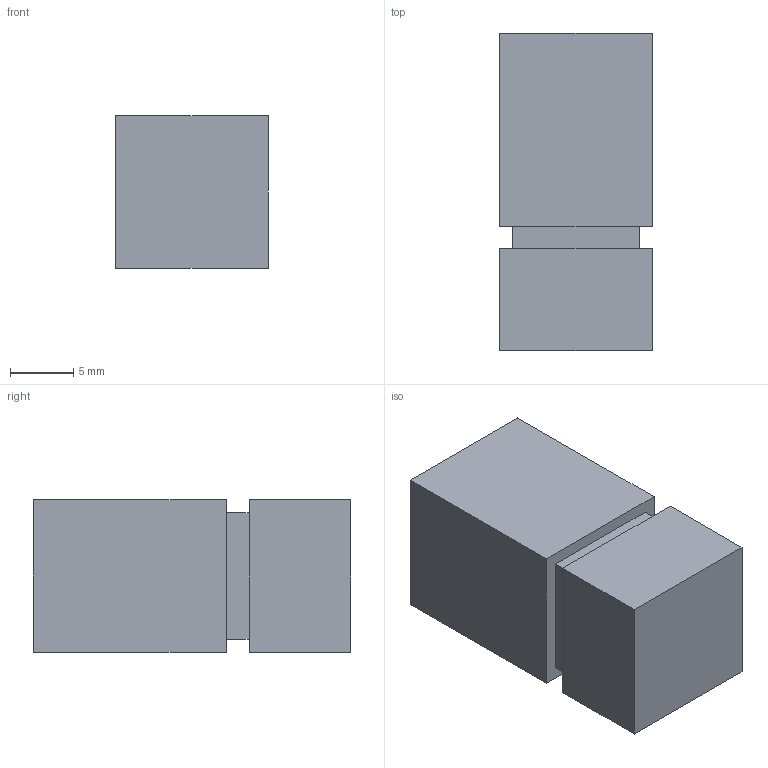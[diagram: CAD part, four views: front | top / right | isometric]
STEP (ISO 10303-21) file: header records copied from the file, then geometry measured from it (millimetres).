
FILE_DESCRIPTION( ( 'STEP AP214' ), '1' );
FILE_NAME( 'C:/Users/swati/Swati/Swati/handle/9208072/9208072.stp', ' ', ( ' ' ), ( ' ' ), 'PSStep 15.0.47', 'PARTsolutions', ' ' );
FILE_SCHEMA( ( 'AUTOMOTIVE_DESIGN { 1 0 10303 214 1 1 1 1 }' ) );
Length unit declared in the file: millimetre
Products named in the file (2): 95 ; _
Assembly tree (1 placements, depth 2):
  95 
    _
Bounding box: 12 x 25 x 12 mm (x, y, z)
Volume: 3395.1 mm3; surface area: 1687.3 mm2
Topology: 1 solids, 1 shells, 18 faces, 39 edges, 26 vertices
Faces by surface type: plane 17, cylinder 1
Full cylindrical faces by diameter (mm): 4 x1
Entity records: 662 total; most frequent: CARTESIAN_POINT 84, DIRECTION 80, ORIENTED_EDGE 76, EDGE_CURVE 38, LINE 36, VECTOR 36, VERTEX_POINT 26, AXIS2_PLACEMENT_3D 22
